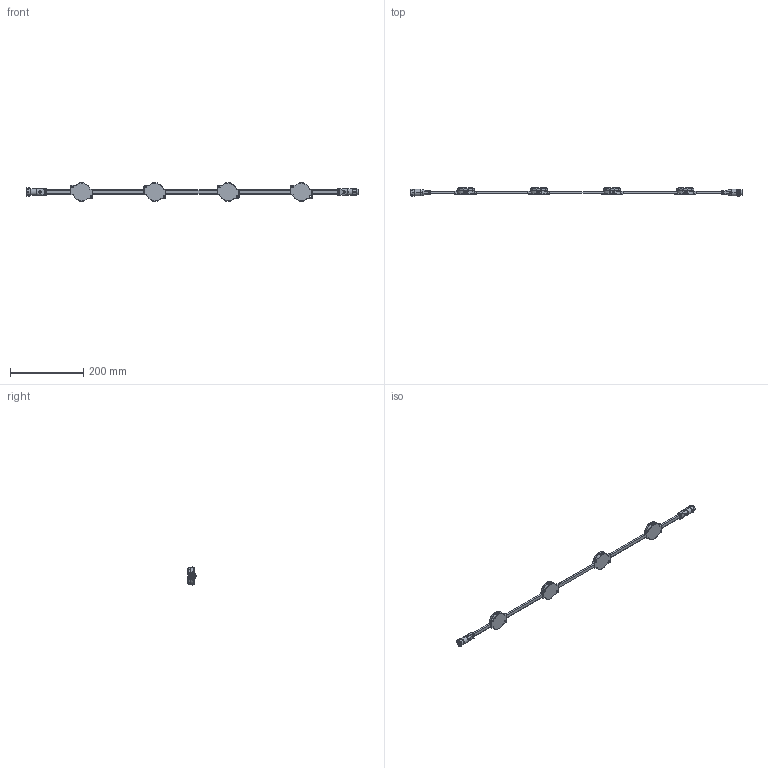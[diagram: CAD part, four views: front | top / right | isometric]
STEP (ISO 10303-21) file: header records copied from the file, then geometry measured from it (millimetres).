
FILE_DESCRIPTION (( 'STEP AP214' ), '1' );
FILE_NAME ('DiGi Module E6S.STEP', '2025-08-19T08:55:29', ( '' ), ( '' ), 'SwSTEP 2.0', 'SolidWorks 2025', '' );
FILE_SCHEMA (( 'AUTOMOTIVE_DESIGN' ));
Length unit declared in the file: millimetre
Products named in the file (6): DiGi Module E6S - Body; DiGi Module E6S; M16 3p Flat mold - Male; DiGi Module E6S - Cover; M16 3p Flat mold - Female; Part32^DiGi Module E6S
Assembly tree (11 placements, depth 2):
  DiGi Module E6S
    DiGi Module E6S - Body  x4
    DiGi Module E6S - Cover  x4
    M16 3p Flat mold - Male
    M16 3p Flat mold - Female
    Part32^DiGi Module E6S
Bounding box: 907.71 x 22.14 x 49.6 mm (x, y, z)
Volume: 154806.3 mm3; surface area: 78916.6 mm2
Topology: 47 solids, 47 shells, 1943 faces, 4647 edges, 2843 vertices
Faces by surface type: cylinder 699, plane 678, bspline 292, torus 174, cone 84, sphere 16
Full cylindrical faces by diameter (mm): 1.6 x3, 10.9 x1, 11.8 x1, 14.25 x1, 14.8 x1, 15.2 x1, 37.3 x4, 41.35 x8
Entity records: 69265 total; most frequent: CARTESIAN_POINT 37487, ORIENTED_EDGE 5298, DIRECTION 4146, EDGE_CURVE 2649, VERTEX_POINT 1623, AXIS2_PLACEMENT_3D 1574, EDGE_LOOP 1216, FACE_OUTER_BOUND 1150
